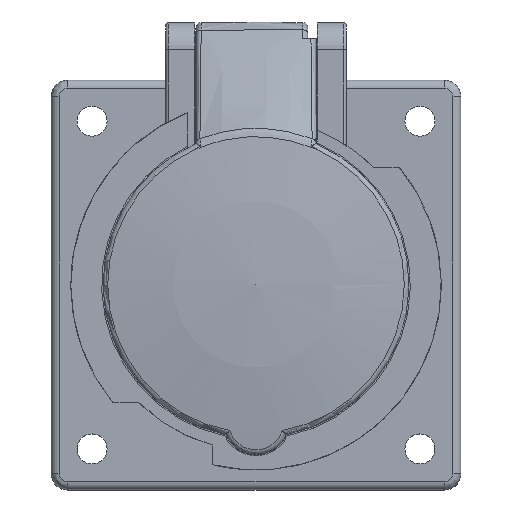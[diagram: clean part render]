
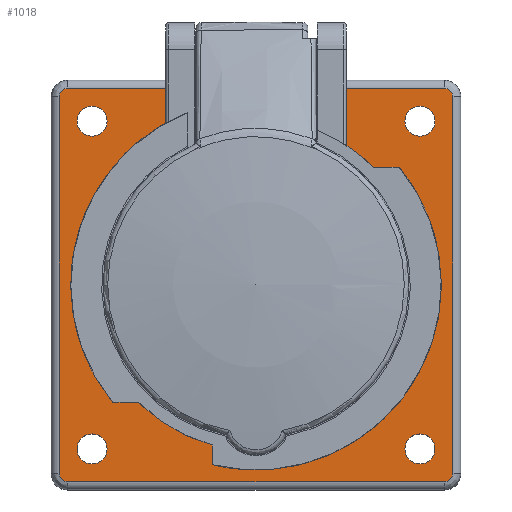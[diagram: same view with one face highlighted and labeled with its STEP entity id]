
A CAD part, top view. The second image highlights one B-rep face of the part: STEP entity #1018.
In plain terms, the highlighted planar face has unit normal (0, 0, 1).
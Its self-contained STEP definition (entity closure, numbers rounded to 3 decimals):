
#1018 = ADVANCED_FACE('',(#1019,#1089,#1109,#1129,#1149,#1255),#1275,.T.
  );
#1019 = FACE_BOUND('',#1020,.T.);
#1020 = EDGE_LOOP('',(#1021,#1031,#1040,#1048,#1057,#1065,#1074,#1082));
#1021 = ORIENTED_EDGE('',*,*,#1022,.T.);
#1022 = EDGE_CURVE('',#1023,#1025,#1027,.T.);
#1023 = VERTEX_POINT('',#1024);
#1024 = CARTESIAN_POINT('',(34.5,36.,4.));
#1025 = VERTEX_POINT('',#1026);
#1026 = CARTESIAN_POINT('',(-34.5,36.,4.));
#1027 = LINE('',#1028,#1029);
#1028 = CARTESIAN_POINT('',(34.5,36.,4.));
#1029 = VECTOR('',#1030,1.);
#1030 = DIRECTION('',(-1.,0.,0.));
#1031 = ORIENTED_EDGE('',*,*,#1032,.T.);
#1032 = EDGE_CURVE('',#1025,#1033,#1035,.T.);
#1033 = VERTEX_POINT('',#1034);
#1034 = CARTESIAN_POINT('',(-36.,34.5,4.));
#1035 = CIRCLE('',#1036,1.5);
#1036 = AXIS2_PLACEMENT_3D('',#1037,#1038,#1039);
#1037 = CARTESIAN_POINT('',(-34.5,34.5,4.));
#1038 = DIRECTION('',(0.,-0.,1.));
#1039 = DIRECTION('',(0.,1.,0.));
#1040 = ORIENTED_EDGE('',*,*,#1041,.T.);
#1041 = EDGE_CURVE('',#1033,#1042,#1044,.T.);
#1042 = VERTEX_POINT('',#1043);
#1043 = CARTESIAN_POINT('',(-36.,-34.5,4.));
#1044 = LINE('',#1045,#1046);
#1045 = CARTESIAN_POINT('',(-36.,34.5,4.));
#1046 = VECTOR('',#1047,1.);
#1047 = DIRECTION('',(0.,-1.,0.));
#1048 = ORIENTED_EDGE('',*,*,#1049,.T.);
#1049 = EDGE_CURVE('',#1042,#1050,#1052,.T.);
#1050 = VERTEX_POINT('',#1051);
#1051 = CARTESIAN_POINT('',(-34.5,-36.,4.));
#1052 = CIRCLE('',#1053,1.5);
#1053 = AXIS2_PLACEMENT_3D('',#1054,#1055,#1056);
#1054 = CARTESIAN_POINT('',(-34.5,-34.5,4.));
#1055 = DIRECTION('',(0.,0.,1.));
#1056 = DIRECTION('',(-1.,0.,0.));
#1057 = ORIENTED_EDGE('',*,*,#1058,.T.);
#1058 = EDGE_CURVE('',#1050,#1059,#1061,.T.);
#1059 = VERTEX_POINT('',#1060);
#1060 = CARTESIAN_POINT('',(34.5,-36.,4.));
#1061 = LINE('',#1062,#1063);
#1062 = CARTESIAN_POINT('',(-34.5,-36.,4.));
#1063 = VECTOR('',#1064,1.);
#1064 = DIRECTION('',(1.,0.,0.));
#1065 = ORIENTED_EDGE('',*,*,#1066,.T.);
#1066 = EDGE_CURVE('',#1059,#1067,#1069,.T.);
#1067 = VERTEX_POINT('',#1068);
#1068 = CARTESIAN_POINT('',(36.,-34.5,4.));
#1069 = CIRCLE('',#1070,1.5);
#1070 = AXIS2_PLACEMENT_3D('',#1071,#1072,#1073);
#1071 = CARTESIAN_POINT('',(34.5,-34.5,4.));
#1072 = DIRECTION('',(0.,0.,1.));
#1073 = DIRECTION('',(0.,-1.,0.));
#1074 = ORIENTED_EDGE('',*,*,#1075,.T.);
#1075 = EDGE_CURVE('',#1067,#1076,#1078,.T.);
#1076 = VERTEX_POINT('',#1077);
#1077 = CARTESIAN_POINT('',(36.,34.5,4.));
#1078 = LINE('',#1079,#1080);
#1079 = CARTESIAN_POINT('',(36.,-34.5,4.));
#1080 = VECTOR('',#1081,1.);
#1081 = DIRECTION('',(0.,1.,0.));
#1082 = ORIENTED_EDGE('',*,*,#1083,.T.);
#1083 = EDGE_CURVE('',#1076,#1023,#1084,.T.);
#1084 = CIRCLE('',#1085,1.5);
#1085 = AXIS2_PLACEMENT_3D('',#1086,#1087,#1088);
#1086 = CARTESIAN_POINT('',(34.5,34.5,4.));
#1087 = DIRECTION('',(0.,0.,1.));
#1088 = DIRECTION('',(1.,0.,-0.));
#1089 = FACE_BOUND('',#1090,.T.);
#1090 = EDGE_LOOP('',(#1091,#1102));
#1091 = ORIENTED_EDGE('',*,*,#1092,.F.);
#1092 = EDGE_CURVE('',#1093,#1095,#1097,.T.);
#1093 = VERTEX_POINT('',#1094);
#1094 = CARTESIAN_POINT('',(-32.75,30.,4.));
#1095 = VERTEX_POINT('',#1096);
#1096 = CARTESIAN_POINT('',(-27.25,30.,4.));
#1097 = CIRCLE('',#1098,2.75);
#1098 = AXIS2_PLACEMENT_3D('',#1099,#1100,#1101);
#1099 = CARTESIAN_POINT('',(-30.,30.,4.));
#1100 = DIRECTION('',(0.,0.,1.));
#1101 = DIRECTION('',(-1.,0.,0.));
#1102 = ORIENTED_EDGE('',*,*,#1103,.F.);
#1103 = EDGE_CURVE('',#1095,#1093,#1104,.T.);
#1104 = CIRCLE('',#1105,2.75);
#1105 = AXIS2_PLACEMENT_3D('',#1106,#1107,#1108);
#1106 = CARTESIAN_POINT('',(-30.,30.,4.));
#1107 = DIRECTION('',(0.,0.,1.));
#1108 = DIRECTION('',(1.,0.,-0.));
#1109 = FACE_BOUND('',#1110,.T.);
#1110 = EDGE_LOOP('',(#1111,#1122));
#1111 = ORIENTED_EDGE('',*,*,#1112,.F.);
#1112 = EDGE_CURVE('',#1113,#1115,#1117,.T.);
#1113 = VERTEX_POINT('',#1114);
#1114 = CARTESIAN_POINT('',(27.25,-30.,4.));
#1115 = VERTEX_POINT('',#1116);
#1116 = CARTESIAN_POINT('',(32.75,-30.,4.));
#1117 = CIRCLE('',#1118,2.75);
#1118 = AXIS2_PLACEMENT_3D('',#1119,#1120,#1121);
#1119 = CARTESIAN_POINT('',(30.,-30.,4.));
#1120 = DIRECTION('',(0.,0.,1.));
#1121 = DIRECTION('',(-1.,0.,0.));
#1122 = ORIENTED_EDGE('',*,*,#1123,.F.);
#1123 = EDGE_CURVE('',#1115,#1113,#1124,.T.);
#1124 = CIRCLE('',#1125,2.75);
#1125 = AXIS2_PLACEMENT_3D('',#1126,#1127,#1128);
#1126 = CARTESIAN_POINT('',(30.,-30.,4.));
#1127 = DIRECTION('',(0.,0.,1.));
#1128 = DIRECTION('',(1.,0.,-0.));
#1129 = FACE_BOUND('',#1130,.T.);
#1130 = EDGE_LOOP('',(#1131,#1142));
#1131 = ORIENTED_EDGE('',*,*,#1132,.F.);
#1132 = EDGE_CURVE('',#1133,#1135,#1137,.T.);
#1133 = VERTEX_POINT('',#1134);
#1134 = CARTESIAN_POINT('',(-32.75,-30.,4.));
#1135 = VERTEX_POINT('',#1136);
#1136 = CARTESIAN_POINT('',(-27.25,-30.,4.));
#1137 = CIRCLE('',#1138,2.75);
#1138 = AXIS2_PLACEMENT_3D('',#1139,#1140,#1141);
#1139 = CARTESIAN_POINT('',(-30.,-30.,4.));
#1140 = DIRECTION('',(0.,0.,1.));
#1141 = DIRECTION('',(-1.,0.,0.));
#1142 = ORIENTED_EDGE('',*,*,#1143,.F.);
#1143 = EDGE_CURVE('',#1135,#1133,#1144,.T.);
#1144 = CIRCLE('',#1145,2.75);
#1145 = AXIS2_PLACEMENT_3D('',#1146,#1147,#1148);
#1146 = CARTESIAN_POINT('',(-30.,-30.,4.));
#1147 = DIRECTION('',(0.,0.,1.));
#1148 = DIRECTION('',(1.,0.,-0.));
#1149 = FACE_BOUND('',#1150,.T.);
#1150 = EDGE_LOOP('',(#1151,#1162,#1170,#1179,#1187,#1196,#1205,#1214,
    #1223,#1232,#1240,#1249));
#1151 = ORIENTED_EDGE('',*,*,#1152,.T.);
#1152 = EDGE_CURVE('',#1153,#1155,#1157,.T.);
#1153 = VERTEX_POINT('',#1154);
#1154 = CARTESIAN_POINT('',(-6.238,26.526,4.));
#1155 = VERTEX_POINT('',#1156);
#1156 = CARTESIAN_POINT('',(6.238,26.526,4.));
#1157 = CIRCLE('',#1158,27.25);
#1158 = AXIS2_PLACEMENT_3D('',#1159,#1160,#1161);
#1159 = CARTESIAN_POINT('',(0.,0.,4.));
#1160 = DIRECTION('',(0.,0.,-1.));
#1161 = DIRECTION('',(-0.229,0.973,0.));
#1162 = ORIENTED_EDGE('',*,*,#1163,.T.);
#1163 = EDGE_CURVE('',#1155,#1164,#1166,.T.);
#1164 = VERTEX_POINT('',#1165);
#1165 = CARTESIAN_POINT('',(16.,26.526,4.));
#1166 = LINE('',#1167,#1168);
#1167 = CARTESIAN_POINT('',(6.238,26.526,4.));
#1168 = VECTOR('',#1169,1.);
#1169 = DIRECTION('',(1.,0.,0.));
#1170 = ORIENTED_EDGE('',*,*,#1171,.T.);
#1171 = EDGE_CURVE('',#1164,#1172,#1174,.T.);
#1172 = VERTEX_POINT('',#1173);
#1173 = CARTESIAN_POINT('',(16.5,25.749,4.));
#1174 = ELLIPSE('',#1175,0.778,0.5);
#1175 = AXIS2_PLACEMENT_3D('',#1176,#1177,#1178);
#1176 = CARTESIAN_POINT('',(16.,25.749,4.));
#1177 = DIRECTION('',(0.,0.,-1.));
#1178 = DIRECTION('',(0.,1.,0.));
#1179 = ORIENTED_EDGE('',*,*,#1180,.T.);
#1180 = EDGE_CURVE('',#1172,#1181,#1183,.T.);
#1181 = VERTEX_POINT('',#1182);
#1182 = CARTESIAN_POINT('',(16.5,22.637,4.));
#1183 = LINE('',#1184,#1185);
#1184 = CARTESIAN_POINT('',(16.5,25.749,4.));
#1185 = VECTOR('',#1186,1.);
#1186 = DIRECTION('',(0.,-1.,0.));
#1187 = ORIENTED_EDGE('',*,*,#1188,.T.);
#1188 = EDGE_CURVE('',#1181,#1189,#1191,.T.);
#1189 = VERTEX_POINT('',#1190);
#1190 = CARTESIAN_POINT('',(16.191,21.918,4.));
#1191 = ELLIPSE('',#1192,0.778,0.5);
#1192 = AXIS2_PLACEMENT_3D('',#1193,#1194,#1195);
#1193 = CARTESIAN_POINT('',(16.,22.637,4.));
#1194 = DIRECTION('',(0.,0.,-1.));
#1195 = DIRECTION('',(0.,-1.,0.));
#1196 = ORIENTED_EDGE('',*,*,#1197,.F.);
#1197 = EDGE_CURVE('',#1198,#1189,#1200,.T.);
#1198 = VERTEX_POINT('',#1199);
#1199 = CARTESIAN_POINT('',(5.774,-26.631,4.));
#1200 = CIRCLE('',#1201,27.25);
#1201 = AXIS2_PLACEMENT_3D('',#1202,#1203,#1204);
#1202 = CARTESIAN_POINT('',(0.,0.,4.));
#1203 = DIRECTION('',(0.,0.,1.));
#1204 = DIRECTION('',(0.212,-0.977,0.));
#1205 = ORIENTED_EDGE('',*,*,#1206,.F.);
#1206 = EDGE_CURVE('',#1207,#1198,#1209,.T.);
#1207 = VERTEX_POINT('',#1208);
#1208 = CARTESIAN_POINT('',(-5.774,-26.631,4.));
#1209 = CIRCLE('',#1210,6.);
#1210 = AXIS2_PLACEMENT_3D('',#1211,#1212,#1213);
#1211 = CARTESIAN_POINT('',(0.,-25.,4.));
#1212 = DIRECTION('',(0.,0.,1.));
#1213 = DIRECTION('',(-0.962,-0.272,0.));
#1214 = ORIENTED_EDGE('',*,*,#1215,.F.);
#1215 = EDGE_CURVE('',#1216,#1207,#1218,.T.);
#1216 = VERTEX_POINT('',#1217);
#1217 = CARTESIAN_POINT('',(-16.191,21.918,4.));
#1218 = CIRCLE('',#1219,27.25);
#1219 = AXIS2_PLACEMENT_3D('',#1220,#1221,#1222);
#1220 = CARTESIAN_POINT('',(0.,0.,4.));
#1221 = DIRECTION('',(0.,0.,1.));
#1222 = DIRECTION('',(-0.594,0.804,0.));
#1223 = ORIENTED_EDGE('',*,*,#1224,.T.);
#1224 = EDGE_CURVE('',#1216,#1225,#1227,.T.);
#1225 = VERTEX_POINT('',#1226);
#1226 = CARTESIAN_POINT('',(-16.5,22.637,4.));
#1227 = ELLIPSE('',#1228,0.778,0.5);
#1228 = AXIS2_PLACEMENT_3D('',#1229,#1230,#1231);
#1229 = CARTESIAN_POINT('',(-16.,22.637,4.));
#1230 = DIRECTION('',(0.,0.,-1.));
#1231 = DIRECTION('',(0.,1.,0.));
#1232 = ORIENTED_EDGE('',*,*,#1233,.F.);
#1233 = EDGE_CURVE('',#1234,#1225,#1236,.T.);
#1234 = VERTEX_POINT('',#1235);
#1235 = CARTESIAN_POINT('',(-16.5,25.749,4.));
#1236 = LINE('',#1237,#1238);
#1237 = CARTESIAN_POINT('',(-16.5,25.749,4.));
#1238 = VECTOR('',#1239,1.);
#1239 = DIRECTION('',(0.,-1.,0.));
#1240 = ORIENTED_EDGE('',*,*,#1241,.T.);
#1241 = EDGE_CURVE('',#1234,#1242,#1244,.T.);
#1242 = VERTEX_POINT('',#1243);
#1243 = CARTESIAN_POINT('',(-16.,26.526,4.));
#1244 = ELLIPSE('',#1245,0.778,0.5);
#1245 = AXIS2_PLACEMENT_3D('',#1246,#1247,#1248);
#1246 = CARTESIAN_POINT('',(-16.,25.749,4.));
#1247 = DIRECTION('',(0.,0.,-1.));
#1248 = DIRECTION('',(0.,-1.,0.));
#1249 = ORIENTED_EDGE('',*,*,#1250,.T.);
#1250 = EDGE_CURVE('',#1242,#1153,#1251,.T.);
#1251 = LINE('',#1252,#1253);
#1252 = CARTESIAN_POINT('',(-16.,26.526,4.));
#1253 = VECTOR('',#1254,1.);
#1254 = DIRECTION('',(1.,0.,0.));
#1255 = FACE_BOUND('',#1256,.T.);
#1256 = EDGE_LOOP('',(#1257,#1268));
#1257 = ORIENTED_EDGE('',*,*,#1258,.F.);
#1258 = EDGE_CURVE('',#1259,#1261,#1263,.T.);
#1259 = VERTEX_POINT('',#1260);
#1260 = CARTESIAN_POINT('',(27.25,30.,4.));
#1261 = VERTEX_POINT('',#1262);
#1262 = CARTESIAN_POINT('',(32.75,30.,4.));
#1263 = CIRCLE('',#1264,2.75);
#1264 = AXIS2_PLACEMENT_3D('',#1265,#1266,#1267);
#1265 = CARTESIAN_POINT('',(30.,30.,4.));
#1266 = DIRECTION('',(0.,0.,1.));
#1267 = DIRECTION('',(-1.,0.,0.));
#1268 = ORIENTED_EDGE('',*,*,#1269,.F.);
#1269 = EDGE_CURVE('',#1261,#1259,#1270,.T.);
#1270 = CIRCLE('',#1271,2.75);
#1271 = AXIS2_PLACEMENT_3D('',#1272,#1273,#1274);
#1272 = CARTESIAN_POINT('',(30.,30.,4.));
#1273 = DIRECTION('',(0.,0.,1.));
#1274 = DIRECTION('',(1.,0.,-0.));
#1275 = PLANE('',#1276);
#1276 = AXIS2_PLACEMENT_3D('',#1277,#1278,#1279);
#1277 = CARTESIAN_POINT('',(0.,0.,4.));
#1278 = DIRECTION('',(0.,0.,1.));
#1279 = DIRECTION('',(-1.,0.,0.));
